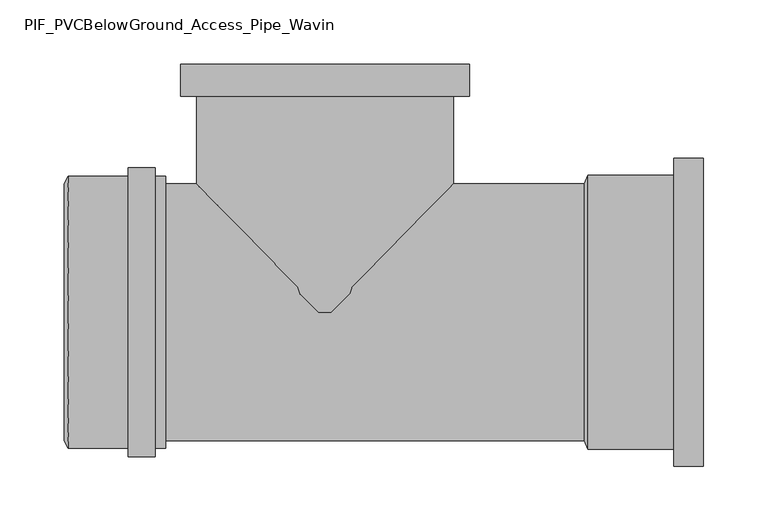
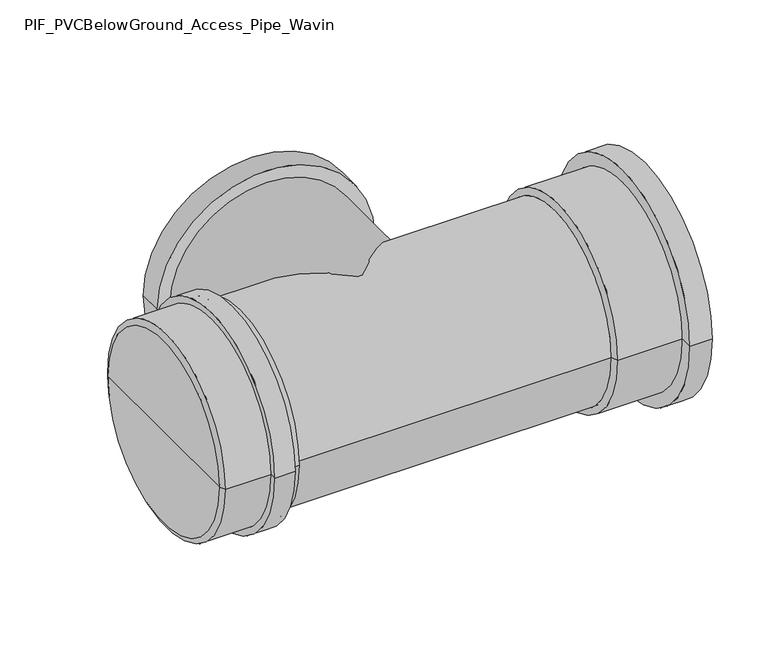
"""IFC4 building model written with IfcOpenShell, lengths in millimetres: pipe fitting geometry, PIF_PVCBelowGround_Access_Pipe_Wavin : PVC Brown RAL8012 - Sever Lock Socket - SN8."""

from ifc_helpers import new_model, si_unit, point, frame, origin, origin_2d, place, context, project, spatial, polyline, circle_curve, trimmed, segment, composite_curve, outline, extrude, source, transform, mapped, element, save
from ifc_brep_helpers import plane_surface, cylinder_surface, revolved_surface, advanced_brep


def pif_pvcbelowground_access_pipe_wavin_0a932e55(model_context):
    return source(origin(), model_context, "Body", "SolidModel", [
        advanced_brep(
        [(-153.0, -112.5, 0.0), (-153.0, 112.5, 0.0), (-132.0, 112.5, 0.0), (-132.0, -112.5, 0.0), (-153.0, -105.7, 0.0), (-153.0, 105.7, 0.0), (-132.0, -105.7, 0.0), (-132.0, 105.7, 0.0)],
        [
            (0, 1, circle_curve(frame((-153.0, 0.0, 0.0), z_axis=(1.0, 0.0, 0.0), x_axis=(0.0, 1.0, 0.0)), 112.5)),
            (1, 2),
            (2, 3, circle_curve(frame((-132.0, 0.0, 0.0), z_axis=(-1.0, 0.0, 0.0), x_axis=(0.0, 1.0, 0.0)), 112.5)),
            (3, 0),
            (1, 0, circle_curve(frame((-153.0, 0.0, 0.0), z_axis=(1.0, 0.0, 0.0), x_axis=(0.0, 1.0, 0.0)), 112.5)),
            (3, 2, circle_curve(frame((-132.0, 0.0, 0.0), z_axis=(-1.0, 0.0, 0.0), x_axis=(0.0, 1.0, 0.0)), 112.5)),
            (4, 5, circle_curve(frame((-153.0, 0.0, 0.0), z_axis=(1.0, 0.0, 0.0), x_axis=(0.0, 1.0, 0.0)), 105.7)),
            (5, 1),
            (0, 4),
            (5, 4, circle_curve(frame((-153.0, 0.0, 0.0), z_axis=(1.0, 0.0, 0.0), x_axis=(0.0, 1.0, 0.0)), 105.7)),
            (6, 7, circle_curve(frame((-132.0, 0.0, 0.0), z_axis=(1.0, 0.0, 0.0), x_axis=(0.0, 1.0, 0.0)), 105.7)),
            (7, 5),
            (4, 6),
            (7, 6, circle_curve(frame((-132.0, 0.0, 0.0), z_axis=(1.0, 0.0, 0.0), x_axis=(0.0, 1.0, 0.0)), 105.7)),
            (2, 7),
            (6, 3),
        ],
        [
            cylinder_surface(frame((1786.3, 0.0, 0.0), z_axis=(-1.0, 0.0, 0.0), x_axis=(0.0, 1.0, 0.0)), 112.5),
            plane_surface(frame((-153.0, 0.0, 0.0), z_axis=(-1.0, 0.0, 0.0), x_axis=(0.0, 1.0, 0.0))),
            revolved_surface(polyline([(-153.0, 105.7, 0.0), (-132.0, 105.7, 0.0)]), (1786.3, 0.0, 0.0), (-1.0, 0.0, 0.0)),
            plane_surface(frame((-132.0, 0.0, 0.0), z_axis=(1.0, 0.0, 0.0), x_axis=(0.0, 1.0, 0.0))),
        ],
        [
            (0, [[1, 2, 3, 4]]),
            (0, [[5, -4, 6, -2]]),
            (1, [[7, 8, -1, 9]]),
            (1, [[10, -9, -5, -8]]),
            (2, [[11, 12, -7, 13]]),
            (2, [[14, -13, -10, -12]]),
            (3, [[-3, 15, -11, 16]]),
            (3, [[-6, -16, -14, -15]]),
        ],
    ),
        advanced_brep(
        [(-124.0, -105.7, 0.0), (-124.0, 105.7, 0.0), (-124.0, 100.0, 0.0), (-124.0, -100.0, 0.0), (-200.0, -105.7, 0.0), (-200.0, 105.7, 0.0), (-203.0, -100.0, 0.0), (-203.0, 100.0, 0.0), (-203.0, 0.0, 0.0), (-200.0, -100.0, 0.0), (-200.0, 100.0, 0.0), (-200.0, 0.0, 0.0)],
        [
            (0, 1, circle_curve(frame((-124.0, 0.0, 0.0), z_axis=(1.0, 0.0, 0.0), x_axis=(0.0, 1.0, 0.0)), 105.7)),
            (1, 2),
            (2, 3, circle_curve(frame((-124.0, 0.0, 0.0), z_axis=(-1.0, 0.0, 0.0), x_axis=(0.0, 1.0, 0.0)), 100.0)),
            (3, 0),
            (1, 0, circle_curve(frame((-124.0, 0.0, 0.0), z_axis=(1.0, 0.0, 0.0), x_axis=(0.0, 1.0, 0.0)), 105.7)),
            (3, 2, circle_curve(frame((-124.0, 0.0, 0.0), z_axis=(-1.0, 0.0, 0.0), x_axis=(0.0, 1.0, 0.0)), 100.0)),
            (4, 5, circle_curve(frame((-200.0, 0.0, 0.0), z_axis=(1.0, 0.0, 0.0), x_axis=(0.0, 1.0, 0.0)), 105.7)),
            (5, 1),
            (0, 4),
            (5, 4, circle_curve(frame((-200.0, 0.0, 0.0), z_axis=(1.0, 0.0, 0.0), x_axis=(0.0, 1.0, 0.0)), 105.7)),
            (6, 7, circle_curve(frame((-203.0, 0.0, 0.0), z_axis=(1.0, 0.0, 0.0), x_axis=(0.0, 1.0, 0.0)), 100.0)),
            (7, 5),
            (4, 6),
            (7, 6, circle_curve(frame((-203.0, 0.0, 0.0), z_axis=(1.0, 0.0, 0.0), x_axis=(0.0, 1.0, 0.0)), 100.0)),
            (8, 7),
            (6, 8),
            (9, 10, circle_curve(frame((-200.0, 0.0, 0.0), z_axis=(1.0, 0.0, 0.0), x_axis=(0.0, 1.0, 0.0)), 100.0)),
            (10, 11),
            (11, 9),
            (10, 9, circle_curve(frame((-200.0, 0.0, 0.0), z_axis=(1.0, 0.0, 0.0), x_axis=(0.0, 1.0, 0.0)), 100.0)),
            (2, 10),
            (9, 3),
        ],
        [
            plane_surface(frame((-124.0, 0.0, 0.0), z_axis=(1.0, 0.0, 0.0), x_axis=(0.0, 1.0, 0.0))),
            cylinder_surface(frame((1786.3, 0.0, 0.0), z_axis=(-1.0, 0.0, 0.0), x_axis=(0.0, 1.0, 0.0)), 105.7),
            revolved_surface(polyline([(-200.0, 105.7, 0.0), (-203.0, 100.0, 0.0)]), (1786.3, 0.0, 0.0), (-1.0, 0.0, 0.0)),
            plane_surface(frame((-203.0, 0.0, 0.0), z_axis=(-1.0, 0.0, 0.0), x_axis=(0.0, 1.0, 0.0))),
            plane_surface(frame((-200.0, 0.0, 0.0), z_axis=(1.0, 0.0, 0.0), x_axis=(0.0, 1.0, 0.0))),
            revolved_surface(polyline([(-200.0, 100.0, 0.0), (-124.0, 100.0, 0.0)]), (1786.3, 0.0, 0.0), (-1.0, 0.0, 0.0)),
        ],
        [
            (0, [[1, 2, 3, 4]]),
            (0, [[5, -4, 6, -2]]),
            (1, [[7, 8, -1, 9]]),
            (1, [[10, -9, -5, -8]]),
            (2, [[11, 12, -7, 13]]),
            (2, [[14, -13, -10, -12]]),
            (3, [[15, -11, 16]]),
            (3, [[-16, -14, -15]]),
            (4, [[17, 18, 19]]),
            (4, [[20, -19, -18]]),
            (5, [[-3, 21, -17, 22]]),
            (5, [[-6, -22, -20, -21]]),
        ],
    ),
        advanced_brep(
        [(271.7, -120.0, 0.0), (271.7, 120.0, 0.0), (294.7, 120.0, 0.0), (294.7, -120.0, 0.0), (271.7, -106.7, 0.0), (271.7, 106.7, 0.0), (294.7, -106.7, 0.0), (294.7, 106.7, 0.0)],
        [
            (0, 1, circle_curve(frame((271.7, 0.0, 0.0), z_axis=(1.0, 0.0, 0.0), x_axis=(0.0, 1.0, 0.0)), 120.0)),
            (1, 2),
            (2, 3, circle_curve(frame((294.7, 0.0, 0.0), z_axis=(-1.0, 0.0, 0.0), x_axis=(0.0, 1.0, 0.0)), 120.0)),
            (3, 0),
            (1, 0, circle_curve(frame((271.7, 0.0, 0.0), z_axis=(1.0, 0.0, 0.0), x_axis=(0.0, 1.0, 0.0)), 120.0)),
            (3, 2, circle_curve(frame((294.7, 0.0, 0.0), z_axis=(-1.0, 0.0, 0.0), x_axis=(0.0, 1.0, 0.0)), 120.0)),
            (4, 5, circle_curve(frame((271.7, 0.0, 0.0), z_axis=(1.0, 0.0, 0.0), x_axis=(0.0, 1.0, 0.0)), 106.7)),
            (5, 1),
            (0, 4),
            (5, 4, circle_curve(frame((271.7, 0.0, 0.0), z_axis=(1.0, 0.0, 0.0), x_axis=(0.0, 1.0, 0.0)), 106.7)),
            (6, 7, circle_curve(frame((294.7, 0.0, 0.0), z_axis=(1.0, 0.0, 0.0), x_axis=(0.0, 1.0, 0.0)), 106.7)),
            (7, 5),
            (4, 6),
            (7, 6, circle_curve(frame((294.7, 0.0, 0.0), z_axis=(1.0, 0.0, 0.0), x_axis=(0.0, 1.0, 0.0)), 106.7)),
            (2, 7),
            (6, 3),
        ],
        [
            cylinder_surface(frame((2205.0, 0.0, 0.0), z_axis=(-1.0, 0.0, 0.0), x_axis=(0.0, 1.0, 0.0)), 120.0),
            plane_surface(frame((271.7, 0.0, 0.0), z_axis=(-1.0, 0.0, 0.0), x_axis=(0.0, 1.0, 0.0))),
            revolved_surface(polyline([(271.70000000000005, 106.7, 0.0), (294.70000000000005, 106.7, 0.0)]), (2205.0, 0.0, 0.0), (-1.0, 0.0, 0.0)),
            plane_surface(frame((294.7, 0.0, 0.0), z_axis=(1.0, 0.0, 0.0), x_axis=(0.0, 1.0, 0.0))),
        ],
        [
            (0, [[1, 2, 3, 4]]),
            (0, [[5, -4, 6, -2]]),
            (1, [[7, 8, -1, 9]]),
            (1, [[10, -9, -5, -8]]),
            (2, [[11, 12, -7, 13]]),
            (2, [[14, -13, -10, -12]]),
            (3, [[-3, 15, -11, 16]]),
            (3, [[-6, -16, -14, -15]]),
        ],
    ),
        advanced_brep(
        [(294.7, -106.7, 0.0), (294.7, 106.7, 0.0), (294.7, 100.0, 0.0), (294.7, -100.0, 0.0), (205.0, -106.7, 0.0), (205.0, 106.7, 0.0), (202.0, -100.0, 0.0), (202.0, 100.0, 0.0), (202.0, 0.0, 0.0), (205.0, -100.0, 0.0), (205.0, 100.0, 0.0), (205.0, 0.0, 0.0)],
        [
            (0, 1, circle_curve(frame((294.7, 0.0, 0.0), z_axis=(1.0, 0.0, 0.0), x_axis=(0.0, 1.0, 0.0)), 106.7)),
            (1, 2),
            (2, 3, circle_curve(frame((294.7, 0.0, 0.0), z_axis=(-1.0, 0.0, 0.0), x_axis=(0.0, 1.0, 0.0)), 100.0)),
            (3, 0),
            (1, 0, circle_curve(frame((294.7, 0.0, 0.0), z_axis=(1.0, 0.0, 0.0), x_axis=(0.0, 1.0, 0.0)), 106.7)),
            (3, 2, circle_curve(frame((294.7, 0.0, 0.0), z_axis=(-1.0, 0.0, 0.0), x_axis=(0.0, 1.0, 0.0)), 100.0)),
            (4, 5, circle_curve(frame((205.0, 0.0, 0.0), z_axis=(1.0, 0.0, 0.0), x_axis=(0.0, 1.0, 0.0)), 106.7)),
            (5, 1),
            (0, 4),
            (5, 4, circle_curve(frame((205.0, 0.0, 0.0), z_axis=(1.0, 0.0, 0.0), x_axis=(0.0, 1.0, 0.0)), 106.7)),
            (6, 7, circle_curve(frame((202.0, 0.0, 0.0), z_axis=(1.0, 0.0, 0.0), x_axis=(0.0, 1.0, 0.0)), 100.0)),
            (7, 5),
            (4, 6),
            (7, 6, circle_curve(frame((202.0, 0.0, 0.0), z_axis=(1.0, 0.0, 0.0), x_axis=(0.0, 1.0, 0.0)), 100.0)),
            (8, 7),
            (6, 8),
            (9, 10, circle_curve(frame((205.0, 0.0, 0.0), z_axis=(1.0, 0.0, 0.0), x_axis=(0.0, 1.0, 0.0)), 100.0)),
            (10, 11),
            (11, 9),
            (10, 9, circle_curve(frame((205.0, 0.0, 0.0), z_axis=(1.0, 0.0, 0.0), x_axis=(0.0, 1.0, 0.0)), 100.0)),
            (2, 10),
            (9, 3),
        ],
        [
            plane_surface(frame((294.7, 0.0, 0.0), z_axis=(1.0, 0.0, 0.0), x_axis=(0.0, 1.0, 0.0))),
            cylinder_surface(frame((2205.0, 0.0, 0.0), z_axis=(-1.0, 0.0, 0.0), x_axis=(0.0, 1.0, 0.0)), 106.7),
            revolved_surface(polyline([(205.0, 106.7, 0.0), (202.0, 100.0, 0.0)]), (2205.0, 0.0, 0.0), (-1.0, 0.0, 0.0)),
            plane_surface(frame((202.0, 0.0, 0.0), z_axis=(-1.0, 0.0, 0.0), x_axis=(0.0, 1.0, 0.0))),
            plane_surface(frame((205.0, 0.0, 0.0), z_axis=(1.0, 0.0, 0.0), x_axis=(0.0, 1.0, 0.0))),
            revolved_surface(polyline([(205.0, 100.0, 0.0), (294.70000000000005, 100.0, 0.0)]), (2205.0, 0.0, 0.0), (-1.0, 0.0, 0.0)),
        ],
        [
            (0, [[1, 2, 3, 4]]),
            (0, [[5, -4, 6, -2]]),
            (1, [[7, 8, -1, 9]]),
            (1, [[10, -9, -5, -8]]),
            (2, [[11, 12, -7, 13]]),
            (2, [[14, -13, -10, -12]]),
            (3, [[15, -11, 16]]),
            (3, [[-16, -14, -15]]),
            (4, [[17, 18, 19]]),
            (4, [[20, -19, -18]]),
            (5, [[-3, 21, -17, 22]]),
            (5, [[-6, -22, -20, -21]]),
        ],
    ),
        extrude(outline(composite_curve([segment(trimmed(circle_curve(origin_2d(), 112.5), [point((0.0, 112.5))], [point((0.0, -112.5))], False, "CARTESIAN"), True, "CONTINUOUS"), segment(trimmed(circle_curve(origin_2d(), 112.5), [point((0.0, -112.5))], [point((0.0, 112.5))], False, "CARTESIAN"), True, "CONTINUOUS")], self_intersect=False)), frame((0.0, 168.0, 0.0), z_axis=(0.0, 1.0, 0.0), x_axis=(0.0, 0.0, 1.0)), (0.0, 0.0, 1.0), 25.0),
        extrude(outline(composite_curve([segment(trimmed(circle_curve(origin_2d(), 100.0), [point((0.0, -100.0))], [point((0.0, 100.0))], False, "CARTESIAN"), True, "CONTINUOUS"), segment(trimmed(circle_curve(origin_2d(), 100.0), [point((0.0, 100.0))], [point((0.0, -100.0))], False, "CARTESIAN"), True, "CONTINUOUS")], self_intersect=False)), frame((0.0, 0.0, 0.0), z_axis=(0.0, 1.0, 0.0), x_axis=(0.0, 0.0, 1.0)), (0.0, 0.0, 1.0), 193.0),
        extrude(outline(composite_curve([segment(trimmed(circle_curve(origin_2d(), 100.0), [point((-100.0, 0.0))], [point((100.0, 0.0))], False, "CARTESIAN"), True, "CONTINUOUS"), segment(trimmed(circle_curve(origin_2d(), 100.0), [point((100.0, 0.0))], [point((-100.0, 0.0))], False, "CARTESIAN"), True, "CONTINUOUS")], self_intersect=False)), frame((-200.0, 0.0, 0.0), z_axis=(1.0, 0.0, 0.0), x_axis=(0.0, 1.0, 0.0)), (0.0, 0.0, 1.0), 405.0),
    ])


if __name__ == "__main__":
    model = new_model("IFC4")
    model_context = context("Model", 3, world=origin())
    ifc_project = project(units=[si_unit("LENGTHUNIT", "METRE", prefix="MILLI")], contexts=[model_context])
    site = spatial("IfcSite", under=ifc_project)
    building = spatial("IfcBuilding", under=site)
    placement = place(None, origin())
    pif_pvcbelowground_access_pipe_wavin_shape = pif_pvcbelowground_access_pipe_wavin_0a932e55(model_context)
    element("IfcPipeFitting", 1, ObjectType="PIF_PVCBelowGround_Access_Pipe_Wavin : PVC Brown RAL8012 - Sever Lock Socket - SN8", at=placement, inside=building, context=model_context, shape_type="MappedRepresentation", body=[
        mapped(pif_pvcbelowground_access_pipe_wavin_shape, transform((0.0, 0.0, 0.0), x_axis=(1.0, 0.0, 0.0), y_axis=(0.0, 1.0, 0.0), z_axis=(0.0, 0.0, 1.0))),
    ])
    save(model, "model.ifc")
